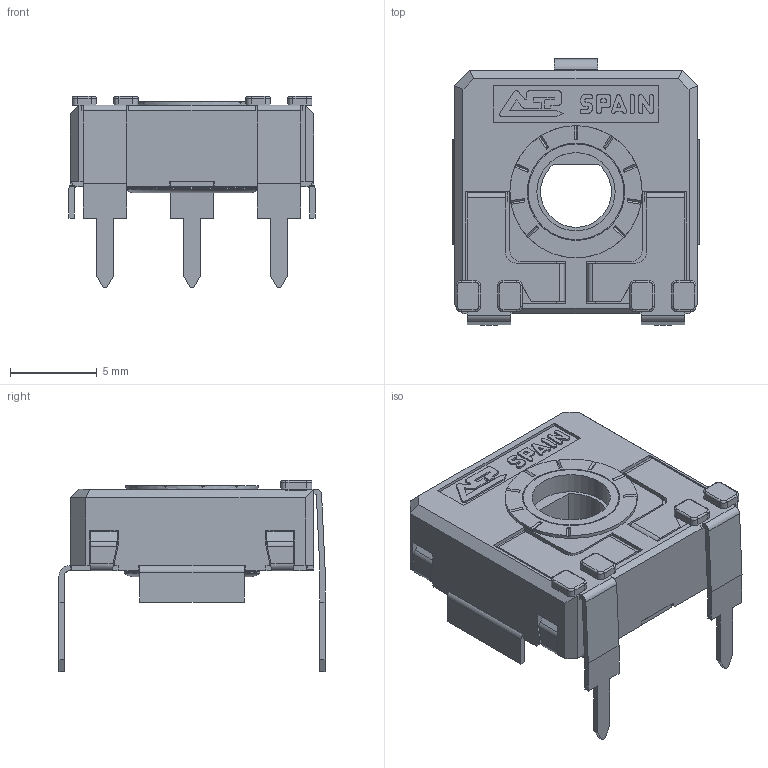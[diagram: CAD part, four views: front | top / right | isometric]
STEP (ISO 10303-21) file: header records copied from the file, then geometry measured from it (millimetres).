
FILE_DESCRIPTION(/* description */ (''),/* implementation_level */ '2;1');
FILE_NAME(/* name */ 'C:\Users\CEM\Desktop\ENVIAR\TRANSICION 3D CATALOGOS\RS14DV15 CFF.stp',/* time_stamp */ '2025-12-10T10:19:17+01:00',/* author */ ('CEM'),/* organization */ (''),/* preprocessor_version */ 'ST-DEVELOPER v16.13',/* originating_system */ 'Autodesk Inventor 2018',/* authorisation */ '');
FILE_SCHEMA (('AUTOMOTIVE_DESIGN { 1 0 10303 214 3 1 1 }'));
Length unit declared in the file: millimetre
Products named in the file (1): CARCASA CA14 PGA
Bounding box: 14.15 x 15.3 x 11 mm (x, y, z)
Volume: 530 mm3; surface area: 1521.4 mm2
Topology: 1 solids, 1 shells, 679 faces, 1912 edges, 1230 vertices
Faces by surface type: plane 500, cylinder 142, torus 23, bspline 8, cone 6
Full cylindrical faces by diameter (mm): 4.5 x1, 5.5 x1, 5.6 x1, 5.752 x1, 6.8 x1, 7.6 x1
Entity records: 22001 total; most frequent: CARTESIAN_POINT 4016, ORIENTED_EDGE 3796, DIRECTION 3584, EDGE_CURVE 1898, LINE 1500, VECTOR 1500, VERTEX_POINT 1226, AXIS2_PLACEMENT_3D 1042
